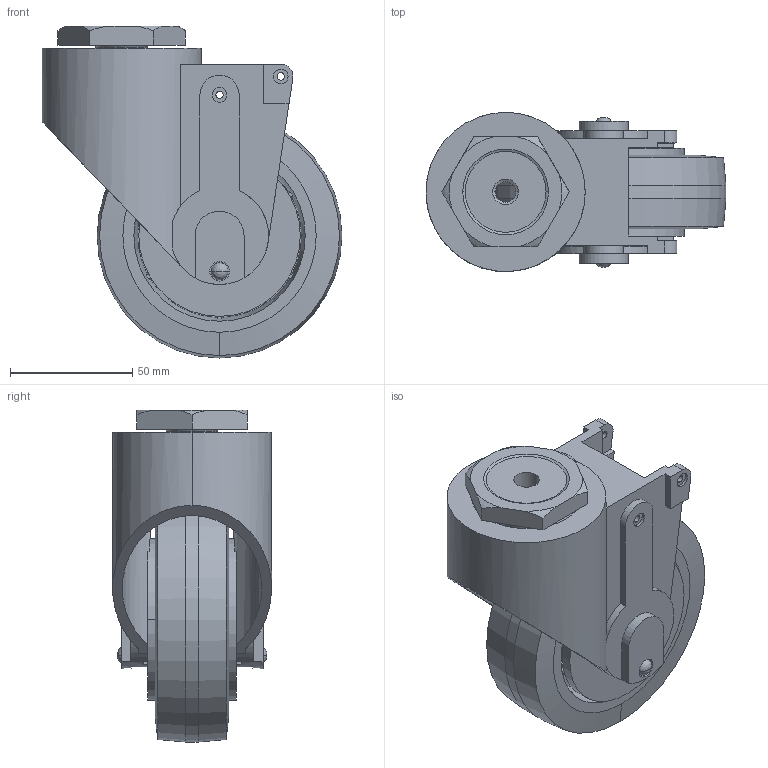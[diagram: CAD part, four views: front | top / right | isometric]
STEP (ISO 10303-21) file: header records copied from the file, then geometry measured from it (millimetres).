
FILE_DESCRIPTION((''),'2;1');
FILE_NAME('GDC-100-ASS.stp','2011-06-14T08:50:58',(''),(''),'Mechanical Desktop 2009','Mechanical Desktop 2009',', , ');
FILE_SCHEMA(('CONFIG_CONTROL_DESIGN'));
Length unit declared in the file: millimetre
Products named in the file (7): GDC-100-ASS; C10020; PART1; M4-10; S10100; WHEEL CAP; 100S PL
Assembly tree (8 placements, depth 3):
  GDC-100-ASS
    C10020
      PART1
    M4-10  x2
    S10100
    WHEEL CAP  x2
    100S PL
Bounding box: 122.5 x 64.97 x 135.6 mm (x, y, z)
Volume: 279148.3 mm3; surface area: 100976.2 mm2
Topology: 7 solids, 7 shells, 287 faces, 735 edges, 483 vertices
Faces by surface type: plane 151, cylinder 100, cone 22, bspline 12, torus 2
Entity records: 8823 total; most frequent: CARTESIAN_POINT 1798, DIRECTION 1538, ORIENTED_EDGE 1382, EDGE_CURVE 691, AXIS2_PLACEMENT_3D 606, VERTEX_POINT 456, VECTOR 326, LINE 326
